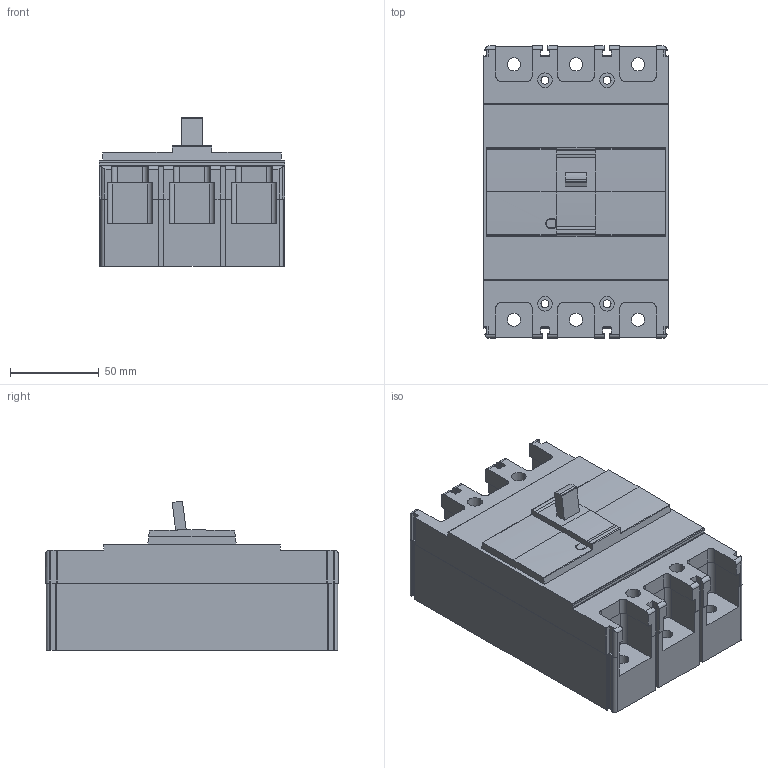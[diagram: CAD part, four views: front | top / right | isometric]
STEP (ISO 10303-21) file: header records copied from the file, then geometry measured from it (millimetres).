
FILE_DESCRIPTION (( 'STEP AP203' ), '1' );
FILE_NAME ('SMART 250AF 3P.STEP', '2018-01-04T00:34:05', ( '' ), ( '' ), 'SwSTEP 2.0', 'SolidWorks 2015', '' );
FILE_SCHEMA (( 'CONFIG_CONTROL_DESIGN' ));
Length unit declared in the file: millimetre
Products named in the file (1): SMART 250AF 3P
Bounding box: 104.8 x 164.8 x 83.97 mm (x, y, z)
Volume: 916296.7 mm3; surface area: 87674.9 mm2
Topology: 1 solids, 1 shells, 443 faces, 1316 edges, 882 vertices
Faces by surface type: plane 210, cylinder 171, bspline 62
Entity records: 15759 total; most frequent: CARTESIAN_POINT 3898, ORIENTED_EDGE 2632, DIRECTION 2272, EDGE_CURVE 1316, VERTEX_POINT 882, LINE 808, VECTOR 808, AXIS2_PLACEMENT_3D 732
